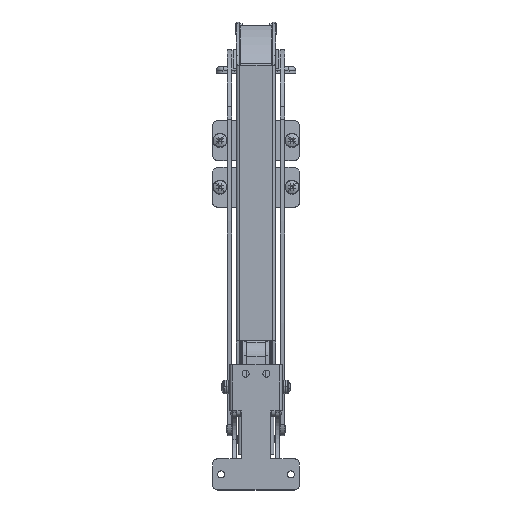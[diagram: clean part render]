
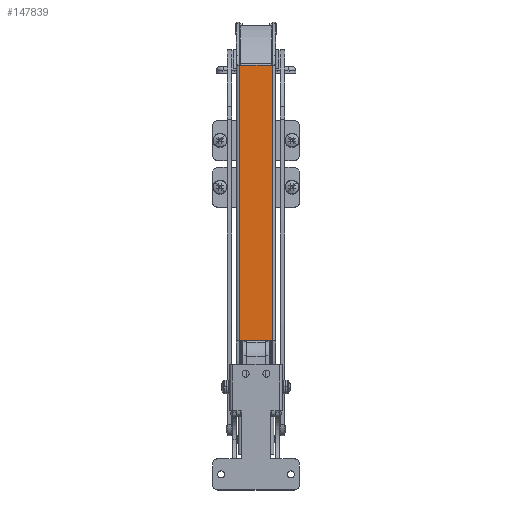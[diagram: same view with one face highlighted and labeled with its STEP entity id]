
A CAD part, top view. The second image highlights one B-rep face of the part: STEP entity #147839.
In plain terms, the highlighted planar face has unit normal (0, 0, 1) as drawn and (0, 1, 0) by its records, which use the part's own axes.
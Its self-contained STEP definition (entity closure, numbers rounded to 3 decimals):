
#21559 = VERTEX_POINT ( 'NONE', #50604 ) ;
#32497 = CIRCLE ( 'NONE', #159387, 0.5 ) ;
#32501 = CIRCLE ( 'NONE', #159389, 0.5 ) ;
#32520 = LINE ( 'NONE', #35111, #32525 ) ;
#32523 = LINE ( 'NONE', #35116, #32529 ) ;
#32525 = VECTOR ( 'NONE', #35112, 1000. ) ;
#32529 = VECTOR ( 'NONE', #35107, 1000. ) ;
#32693 = LINE ( 'NONE', #35252, #32708 ) ;
#32704 = LINE ( 'NONE', #35250, #32712 ) ;
#32708 = VECTOR ( 'NONE', #35249, 1000. ) ;
#32712 = VECTOR ( 'NONE', #35251, 1000. ) ;
#35075 = CARTESIAN_POINT ( 'NONE',  ( 20.5, 64.6, -9.65 ) ) ;
#35076 = DIRECTION ( 'NONE',  ( 0., 1., 0. ) ) ;
#35077 = DIRECTION ( 'NONE',  ( 0., 0., -1. ) ) ;
#35085 = CARTESIAN_POINT ( 'NONE',  ( 20.5, 64.6, 9.65 ) ) ;
#35086 = DIRECTION ( 'NONE',  ( 0., 1., 0. ) ) ;
#35087 = DIRECTION ( 'NONE',  ( 0., 0., 1. ) ) ;
#35107 = DIRECTION ( 'NONE',  ( 0., 0., -1. ) ) ;
#35111 = CARTESIAN_POINT ( 'NONE',  ( 100.33, 64.6, -9.65 ) ) ;
#35112 = DIRECTION ( 'NONE',  ( 1., 0., 0. ) ) ;
#35116 = CARTESIAN_POINT ( 'NONE',  ( 20.948, 64.6, 0. ) ) ;
#35249 = DIRECTION ( 'NONE',  ( 1., 0., 0. ) ) ;
#35250 = CARTESIAN_POINT ( 'NONE',  ( 179.711, 64.6, 0. ) ) ;
#35251 = DIRECTION ( 'NONE',  ( 0., 0., -1. ) ) ;
#35252 = CARTESIAN_POINT ( 'NONE',  ( 100.356, 64.6, 9.65 ) ) ;
#47336 = FACE_OUTER_BOUND ( 'NONE', #80144, .T. ) ;
#50604 = CARTESIAN_POINT ( 'NONE',  ( 21., 64.6, -9.65 ) ) ;
#56761 = CARTESIAN_POINT ( 'NONE',  ( 20.948, 64.6, -9.65 ) ) ;
#56780 = PLANE ( 'NONE',  #160201 ) ;
#56783 = DIRECTION ( 'NONE',  ( 0., -1., 0. ) ) ;
#56786 = DIRECTION ( 'NONE',  ( 1., 0., 0. ) ) ;
#57849 = VERTEX_POINT ( 'NONE', #121779 ) ;
#57863 = VERTEX_POINT ( 'NONE', #121772 ) ;
#57873 = VERTEX_POINT ( 'NONE', #121815 ) ;
#57891 = VERTEX_POINT ( 'NONE', #121852 ) ;
#58057 = VERTEX_POINT ( 'NONE', #122095 ) ;
#80144 = EDGE_LOOP ( 'NONE', ( #123355, #123357, #123358, #123359, #123361, #123362 ) ) ;
#121772 = CARTESIAN_POINT ( 'NONE',  ( 21., 64.6, 9.65 ) ) ;
#121779 = CARTESIAN_POINT ( 'NONE',  ( 20.948, 64.6, -9.429 ) ) ;
#121815 = CARTESIAN_POINT ( 'NONE',  ( 20.948, 64.6, 9.429 ) ) ;
#121852 = CARTESIAN_POINT ( 'NONE',  ( 179.711, 64.6, -9.65 ) ) ;
#122095 = CARTESIAN_POINT ( 'NONE',  ( 179.711, 64.6, 9.65 ) ) ;
#123355 = ORIENTED_EDGE ( 'NONE', *, *, #128305, .F. ) ;
#123357 = ORIENTED_EDGE ( 'NONE', *, *, #128265, .F. ) ;
#123358 = ORIENTED_EDGE ( 'NONE', *, *, #128549, .T. ) ;
#123359 = ORIENTED_EDGE ( 'NONE', *, *, #128553, .T. ) ;
#123361 = ORIENTED_EDGE ( 'NONE', *, *, #128300, .F. ) ;
#123362 = ORIENTED_EDGE ( 'NONE', *, *, #128253, .F. ) ;
#128253 = EDGE_CURVE ( 'NONE', #57849, #21559, #32497, .T. ) ;
#128265 = EDGE_CURVE ( 'NONE', #57863, #57873, #32501, .T. ) ;
#128300 = EDGE_CURVE ( 'NONE', #21559, #57891, #32520, .T. ) ;
#128305 = EDGE_CURVE ( 'NONE', #57873, #57849, #32523, .T. ) ;
#128549 = EDGE_CURVE ( 'NONE', #57863, #58057, #32693, .T. ) ;
#128553 = EDGE_CURVE ( 'NONE', #58057, #57891, #32704, .T. ) ;
#147839 = ADVANCED_FACE ( 'NONE', ( #47336 ), #56780, .F. ) ;
#159387 = AXIS2_PLACEMENT_3D ( 'NONE', #35075, #35076, #35077 ) ;
#159389 = AXIS2_PLACEMENT_3D ( 'NONE', #35085, #35086, #35087 ) ;
#160201 = AXIS2_PLACEMENT_3D ( 'NONE', #56761, #56783, #56786 ) ;
